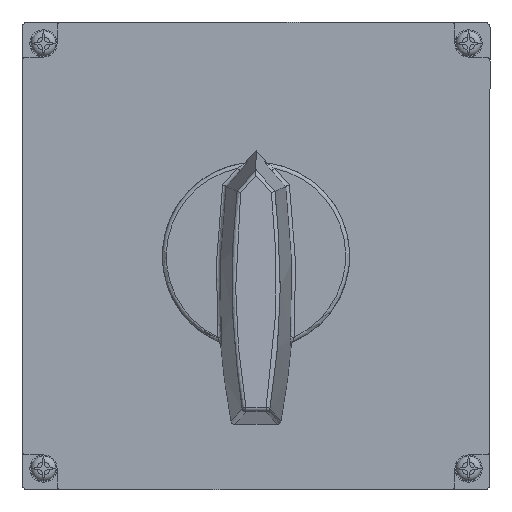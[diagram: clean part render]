
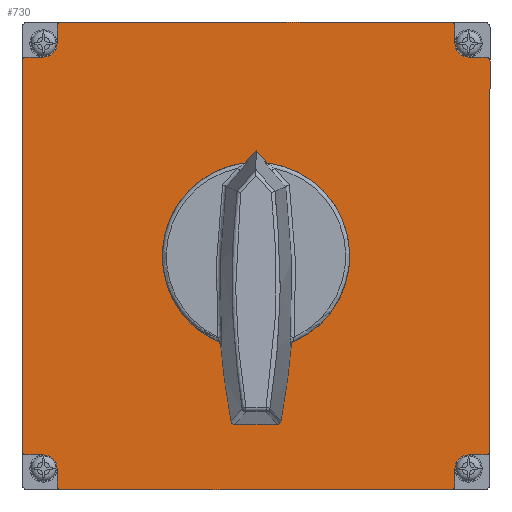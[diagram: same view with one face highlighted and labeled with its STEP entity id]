
A CAD part, front view. The second image highlights one B-rep face of the part: STEP entity #730.
In plain terms, the highlighted planar face has unit normal (0, -1, 0).
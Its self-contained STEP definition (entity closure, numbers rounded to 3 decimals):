
#142=FACE_BOUND('',#1250,.T.);
#143=FACE_BOUND('',#1251,.T.);
#255=CIRCLE('',#3647,3.5);
#262=CIRCLE('',#3656,3.5);
#269=CIRCLE('',#3665,3.5);
#276=CIRCLE('',#3674,3.5);
#301=CIRCLE('',#3718,1.);
#302=CIRCLE('',#3722,1.);
#306=CIRCLE('',#3730,1.);
#307=CIRCLE('',#3732,1.);
#311=CIRCLE('',#3738,1.);
#312=CIRCLE('',#3740,1.);
#316=CIRCLE('',#3748,1.);
#317=CIRCLE('',#3752,1.);
#362=CIRCLE('',#3879,24.);
#730=ADVANCED_FACE('',(#142,#143),#880,.F.);
#880=PLANE('',#3880);
#1250=EDGE_LOOP('',(#2061));
#1251=EDGE_LOOP('',(#2062,#2063,#2064,#2065,#2066,#2067,#2068,#2069,#2070,
#2071,#2072,#2073,#2074,#2075,#2076,#2077,#2078,#2079,#2080,#2081,#2082,
#2083,#2084,#2085));
#2061=ORIENTED_EDGE('',*,*,#3083,.F.);
#2062=ORIENTED_EDGE('',*,*,#2776,.F.);
#2063=ORIENTED_EDGE('',*,*,#2884,.F.);
#2064=ORIENTED_EDGE('',*,*,#2886,.F.);
#2065=ORIENTED_EDGE('',*,*,#2900,.T.);
#2066=ORIENTED_EDGE('',*,*,#2855,.F.);
#2067=ORIENTED_EDGE('',*,*,#2849,.F.);
#2068=ORIENTED_EDGE('',*,*,#2785,.F.);
#2069=ORIENTED_EDGE('',*,*,#2852,.F.);
#2070=ORIENTED_EDGE('',*,*,#2854,.F.);
#2071=ORIENTED_EDGE('',*,*,#2898,.T.);
#2072=ORIENTED_EDGE('',*,*,#2868,.F.);
#2073=ORIENTED_EDGE('',*,*,#2870,.F.);
#2074=ORIENTED_EDGE('',*,*,#2794,.F.);
#2075=ORIENTED_EDGE('',*,*,#2871,.F.);
#2076=ORIENTED_EDGE('',*,*,#2865,.F.);
#2077=ORIENTED_EDGE('',*,*,#2906,.T.);
#2078=ORIENTED_EDGE('',*,*,#2835,.F.);
#2079=ORIENTED_EDGE('',*,*,#2837,.F.);
#2080=ORIENTED_EDGE('',*,*,#2803,.F.);
#2081=ORIENTED_EDGE('',*,*,#2839,.F.);
#2082=ORIENTED_EDGE('',*,*,#2841,.F.);
#2083=ORIENTED_EDGE('',*,*,#2904,.T.);
#2084=ORIENTED_EDGE('',*,*,#2880,.F.);
#2085=ORIENTED_EDGE('',*,*,#2882,.F.);
#2406=VERTEX_POINT('',#6551);
#2407=VERTEX_POINT('',#6552);
#2415=VERTEX_POINT('',#6571);
#2416=VERTEX_POINT('',#6572);
#2424=VERTEX_POINT('',#6591);
#2425=VERTEX_POINT('',#6592);
#2433=VERTEX_POINT('',#6611);
#2434=VERTEX_POINT('',#6612);
#2463=VERTEX_POINT('',#6691);
#2464=VERTEX_POINT('',#6693);
#2465=VERTEX_POINT('',#6699);
#2466=VERTEX_POINT('',#6703);
#2473=VERTEX_POINT('',#6721);
#2474=VERTEX_POINT('',#6725);
#2475=VERTEX_POINT('',#6729);
#2476=VERTEX_POINT('',#6733);
#2483=VERTEX_POINT('',#6751);
#2484=VERTEX_POINT('',#6753);
#2485=VERTEX_POINT('',#6757);
#2486=VERTEX_POINT('',#6759);
#2493=VERTEX_POINT('',#6781);
#2494=VERTEX_POINT('',#6783);
#2495=VERTEX_POINT('',#6789);
#2496=VERTEX_POINT('',#6793);
#2617=VERTEX_POINT('',#7434);
#2776=EDGE_CURVE('',#2406,#2407,#255,.T.);
#2785=EDGE_CURVE('',#2415,#2416,#262,.T.);
#2794=EDGE_CURVE('',#2424,#2425,#269,.T.);
#2803=EDGE_CURVE('',#2433,#2434,#276,.T.);
#2835=EDGE_CURVE('',#2463,#2464,#301,.T.);
#2837=EDGE_CURVE('',#2434,#2463,#3261,.T.);
#2839=EDGE_CURVE('',#2465,#2433,#3263,.T.);
#2841=EDGE_CURVE('',#2466,#2465,#302,.T.);
#2849=EDGE_CURVE('',#2416,#2473,#3269,.T.);
#2852=EDGE_CURVE('',#2474,#2415,#3272,.T.);
#2854=EDGE_CURVE('',#2475,#2474,#306,.T.);
#2855=EDGE_CURVE('',#2473,#2476,#307,.T.);
#2865=EDGE_CURVE('',#2483,#2484,#311,.T.);
#2868=EDGE_CURVE('',#2485,#2486,#312,.T.);
#2870=EDGE_CURVE('',#2425,#2485,#3283,.T.);
#2871=EDGE_CURVE('',#2484,#2424,#3284,.T.);
#2880=EDGE_CURVE('',#2493,#2494,#316,.T.);
#2882=EDGE_CURVE('',#2407,#2493,#3291,.T.);
#2884=EDGE_CURVE('',#2495,#2406,#3293,.T.);
#2886=EDGE_CURVE('',#2496,#2495,#317,.T.);
#2898=EDGE_CURVE('',#2475,#2486,#3302,.T.);
#2900=EDGE_CURVE('',#2496,#2476,#3304,.T.);
#2904=EDGE_CURVE('',#2466,#2494,#3308,.T.);
#2906=EDGE_CURVE('',#2483,#2464,#3310,.T.);
#3083=EDGE_CURVE('',#2617,#2617,#362,.T.);
#3261=LINE('',#6696,#3462);
#3263=LINE('',#6700,#3464);
#3269=LINE('',#6720,#3470);
#3272=LINE('',#6726,#3473);
#3283=LINE('',#6762,#3484);
#3284=LINE('',#6764,#3485);
#3291=LINE('',#6786,#3492);
#3293=LINE('',#6790,#3494);
#3302=LINE('',#6817,#3503);
#3304=LINE('',#6821,#3505);
#3308=LINE('',#6827,#3509);
#3310=LINE('',#6831,#3511);
#3462=VECTOR('',#4208,1.);
#3464=VECTOR('',#4212,1.);
#3470=VECTOR('',#4232,1.);
#3473=VECTOR('',#4237,1.);
#3484=VECTOR('',#4274,1.);
#3485=VECTOR('',#4277,1.);
#3492=VECTOR('',#4298,1.);
#3494=VECTOR('',#4302,1.);
#3503=VECTOR('',#4329,1.);
#3505=VECTOR('',#4335,1.);
#3509=VECTOR('',#4343,1.);
#3511=VECTOR('',#4349,1.);
#3647=AXIS2_PLACEMENT_3D('',#6550,#4048,#4049);
#3656=AXIS2_PLACEMENT_3D('',#6570,#4068,#4069);
#3665=AXIS2_PLACEMENT_3D('',#6590,#4088,#4089);
#3674=AXIS2_PLACEMENT_3D('',#6610,#4108,#4109);
#3718=AXIS2_PLACEMENT_3D('',#6692,#4203,#4204);
#3722=AXIS2_PLACEMENT_3D('',#6704,#4216,#4217);
#3730=AXIS2_PLACEMENT_3D('',#6730,#4241,#4242);
#3732=AXIS2_PLACEMENT_3D('',#6732,#4245,#4246);
#3738=AXIS2_PLACEMENT_3D('',#6752,#4263,#4264);
#3740=AXIS2_PLACEMENT_3D('',#6758,#4269,#4270);
#3748=AXIS2_PLACEMENT_3D('',#6782,#4293,#4294);
#3752=AXIS2_PLACEMENT_3D('',#6794,#4306,#4307);
#3879=AXIS2_PLACEMENT_3D('',#7433,#4656,#4657);
#3880=AXIS2_PLACEMENT_3D('',#7435,#4658,#4659);
#4048=DIRECTION('',(0.,-1.,0.));
#4049=DIRECTION('',(0.,0.,-1.));
#4068=DIRECTION('',(0.,-1.,0.));
#4069=DIRECTION('',(0.,0.,-1.));
#4088=DIRECTION('',(0.,-1.,0.));
#4089=DIRECTION('',(0.,0.,-1.));
#4108=DIRECTION('',(0.,-1.,0.));
#4109=DIRECTION('',(0.,0.,-1.));
#4203=DIRECTION('',(0.,1.,0.));
#4204=DIRECTION('',(-1.,0.,0.));
#4208=DIRECTION('',(0.,0.,1.));
#4212=DIRECTION('',(1.,0.,0.));
#4216=DIRECTION('',(0.,1.,0.));
#4217=DIRECTION('',(-1.,0.,0.));
#4232=DIRECTION('',(0.,0.,-1.));
#4237=DIRECTION('',(-1.,0.,0.));
#4241=DIRECTION('',(0.,1.,0.));
#4242=DIRECTION('',(-1.,0.,0.));
#4245=DIRECTION('',(0.,1.,0.));
#4246=DIRECTION('',(-1.,0.,0.));
#4263=DIRECTION('',(0.,1.,0.));
#4264=DIRECTION('',(-1.,0.,0.));
#4269=DIRECTION('',(0.,1.,0.));
#4270=DIRECTION('',(-1.,0.,0.));
#4274=DIRECTION('',(1.,0.,0.));
#4277=DIRECTION('',(0.,0.,-1.));
#4293=DIRECTION('',(0.,1.,0.));
#4294=DIRECTION('',(-1.,0.,0.));
#4298=DIRECTION('',(-1.,0.,0.));
#4302=DIRECTION('',(0.,0.,1.));
#4306=DIRECTION('',(0.,1.,0.));
#4307=DIRECTION('',(-1.,0.,0.));
#4329=DIRECTION('',(0.,0.,1.));
#4335=DIRECTION('',(1.,0.,0.));
#4343=DIRECTION('',(0.,0.,-1.));
#4349=DIRECTION('',(-1.,0.,0.));
#4656=DIRECTION('',(0.,-1.,0.));
#4657=DIRECTION('',(1.,0.,0.));
#4658=DIRECTION('',(0.,1.,0.));
#4659=DIRECTION('',(0.,0.,1.));
#6550=CARTESIAN_POINT('',(-54.5,0.,-54.5));
#6551=CARTESIAN_POINT('',(-51.,0.,-54.5));
#6552=CARTESIAN_POINT('',(-54.5,0.,-51.));
#6570=CARTESIAN_POINT('',(54.5,0.,-54.5));
#6571=CARTESIAN_POINT('',(54.5,0.,-51.));
#6572=CARTESIAN_POINT('',(51.,0.,-54.5));
#6590=CARTESIAN_POINT('',(54.5,0.,54.5));
#6591=CARTESIAN_POINT('',(51.,0.,54.5));
#6592=CARTESIAN_POINT('',(54.5,0.,51.));
#6610=CARTESIAN_POINT('',(-54.5,0.,54.5));
#6611=CARTESIAN_POINT('',(-54.5,0.,51.));
#6612=CARTESIAN_POINT('',(-51.,0.,54.5));
#6691=CARTESIAN_POINT('',(-51.,0.,59.));
#6692=CARTESIAN_POINT('',(-50.,0.,59.));
#6693=CARTESIAN_POINT('',(-50.,0.,60.));
#6696=CARTESIAN_POINT('',(-51.,0.,55.));
#6699=CARTESIAN_POINT('',(-59.,0.,51.));
#6700=CARTESIAN_POINT('',(-59.,0.,51.));
#6703=CARTESIAN_POINT('',(-60.,0.,50.));
#6704=CARTESIAN_POINT('',(-59.,0.,50.));
#6720=CARTESIAN_POINT('',(51.,0.,-55.));
#6721=CARTESIAN_POINT('',(51.,0.,-59.));
#6725=CARTESIAN_POINT('',(59.,0.,-51.));
#6726=CARTESIAN_POINT('',(59.,0.,-51.));
#6729=CARTESIAN_POINT('',(60.,0.,-50.));
#6730=CARTESIAN_POINT('',(59.,0.,-50.));
#6732=CARTESIAN_POINT('',(50.,0.,-59.));
#6733=CARTESIAN_POINT('',(50.,0.,-60.));
#6751=CARTESIAN_POINT('',(50.,0.,60.));
#6752=CARTESIAN_POINT('',(50.,0.,59.));
#6753=CARTESIAN_POINT('',(51.,0.,59.));
#6757=CARTESIAN_POINT('',(59.,0.,51.));
#6758=CARTESIAN_POINT('',(59.,0.,50.));
#6759=CARTESIAN_POINT('',(60.,0.,50.));
#6762=CARTESIAN_POINT('',(55.,0.,51.));
#6764=CARTESIAN_POINT('',(51.,0.,59.));
#6781=CARTESIAN_POINT('',(-59.,0.,-51.));
#6782=CARTESIAN_POINT('',(-59.,0.,-50.));
#6783=CARTESIAN_POINT('',(-60.,0.,-50.));
#6786=CARTESIAN_POINT('',(-55.,0.,-51.));
#6789=CARTESIAN_POINT('',(-51.,0.,-59.));
#6790=CARTESIAN_POINT('',(-51.,0.,-59.));
#6793=CARTESIAN_POINT('',(-50.,0.,-60.));
#6794=CARTESIAN_POINT('',(-50.,0.,-59.));
#6817=CARTESIAN_POINT('',(60.,0.,-58.5));
#6821=CARTESIAN_POINT('',(-58.5,0.,-60.));
#6827=CARTESIAN_POINT('',(-60.,0.,58.5));
#6831=CARTESIAN_POINT('',(58.5,0.,60.));
#7433=CARTESIAN_POINT('',(0.,0.,0.));
#7434=CARTESIAN_POINT('',(24.,0.,0.));
#7435=CARTESIAN_POINT('',(0.,0.,0.));
